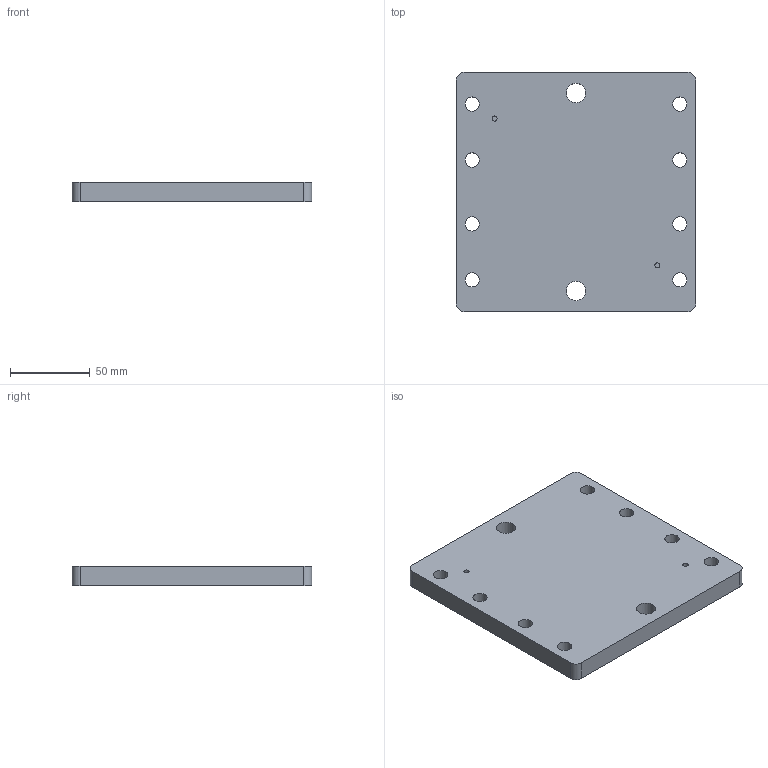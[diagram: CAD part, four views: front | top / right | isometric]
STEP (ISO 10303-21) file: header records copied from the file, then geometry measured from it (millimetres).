
FILE_DESCRIPTION(('FreeCAD Model'),'2;1');
FILE_NAME('Open CASCADE Shape Model','2026-10-30T14:44:38',('FreeCAD'),( 'FreeCAD'),'Open CASCADE STEP processor 7.8','FreeCAD','Unknown');
FILE_SCHEMA(('AUTOMOTIVE_DESIGN { 1 0 10303 214 1 1 1 1 }'));
Length unit declared in the file: millimetre
Products named in the file (1): Open CASCADE STEP translator 7.8 5
Bounding box: 150 x 150 x 12 mm (x, y, z)
Volume: 260872.6 mm3; surface area: 54263.2 mm2
Topology: 1 solids, 1 shells, 24 faces, 60 edges, 40 vertices
Faces by surface type: cylinder 16, plane 8
Full cylindrical faces by diameter (mm): 3.2 x2, 9 x8, 12 x2
Entity records: 786 total; most frequent: DIRECTION 142, CARTESIAN_POINT 125, ORIENTED_EDGE 120, EDGE_CURVE 60, AXIS2_PLACEMENT_3D 57, FACE_BOUND 46, EDGE_LOOP 46, VERTEX_POINT 40
